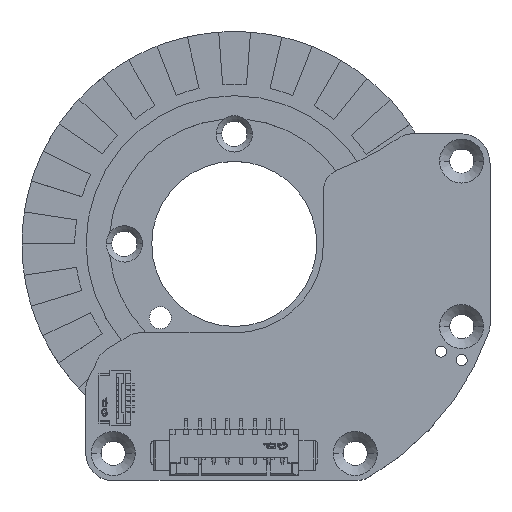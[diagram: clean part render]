
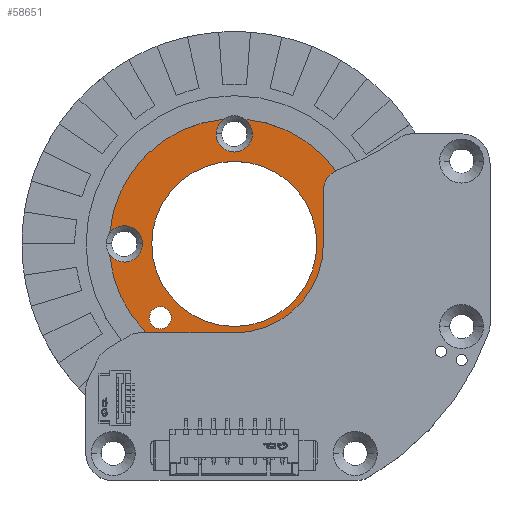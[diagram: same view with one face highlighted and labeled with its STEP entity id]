
A CAD part, top view. The second image highlights one B-rep face of the part: STEP entity #58651.
In plain terms, the highlighted planar face has unit normal (0, 0, 1) as drawn and (0, 1, 0) by its records, which use the part's own axes.
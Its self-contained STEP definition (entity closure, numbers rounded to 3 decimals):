
#56525=CARTESIAN_POINT('',(0.,1.,0.));
#56526=DIRECTION('',(0.,-1.,0.));
#56527=DIRECTION('',(1.,0.,0.));
#56528=AXIS2_PLACEMENT_3D('',#56525,#56526,#56527);
#56530=CARTESIAN_POINT('',(0.,1.,0.));
#56531=DIRECTION('',(0.,-1.,0.));
#56532=DIRECTION('',(-1.,0.,0.));
#56533=AXIS2_PLACEMENT_3D('',#56530,#56531,#56532);
#56703=CARTESIAN_POINT('',(6.718,1.,-6.718));
#56704=DIRECTION('',(0.,1.,0.));
#56705=DIRECTION('',(0.,0.,1.));
#56706=AXIS2_PLACEMENT_3D('',#56703,#56704,#56705);
#56708=CARTESIAN_POINT('',(6.718,1.,-6.718));
#56709=DIRECTION('',(0.,1.,0.));
#56710=DIRECTION('',(0.,0.,-1.));
#56711=AXIS2_PLACEMENT_3D('',#56708,#56709,#56710);
#56718=CARTESIAN_POINT('',(0.,1.,10.));
#56719=DIRECTION('',(0.,-1.,0.));
#56720=DIRECTION('',(1.,0.,0.));
#56721=AXIS2_PLACEMENT_3D('',#56718,#56719,#56720);
#56723=CARTESIAN_POINT('',(0.,1.,10.));
#56724=DIRECTION('',(0.,-1.,0.));
#56725=DIRECTION('',(-1.,0.,0.));
#56726=AXIS2_PLACEMENT_3D('',#56723,#56724,#56725);
#56728=CARTESIAN_POINT('',(0.,1.,10.));
#56729=DIRECTION('',(0.,-1.,0.));
#56730=DIRECTION('',(-0.589,0.,0.808));
#56731=AXIS2_PLACEMENT_3D('',#56728,#56729,#56730);
#56733=CARTESIAN_POINT('',(-10.,1.,0.));
#56734=DIRECTION('',(0.,-1.,0.));
#56735=DIRECTION('',(1.,0.,0.));
#56736=AXIS2_PLACEMENT_3D('',#56733,#56734,#56735);
#56738=CARTESIAN_POINT('',(-10.,1.,0.));
#56739=DIRECTION('',(0.,-1.,0.));
#56740=DIRECTION('',(-0.808,0.,-0.589));
#56741=AXIS2_PLACEMENT_3D('',#56738,#56739,#56740);
#56743=CARTESIAN_POINT('',(0.,1.,-10.));
#56744=DIRECTION('',(0.,-1.,0.));
#56745=DIRECTION('',(-1.,0.,0.));
#56746=AXIS2_PLACEMENT_3D('',#56743,#56744,#56745);
#56748=CARTESIAN_POINT('',(0.,1.,-10.));
#56749=DIRECTION('',(0.,-1.,0.));
#56750=DIRECTION('',(1.,0.,0.));
#56751=AXIS2_PLACEMENT_3D('',#56748,#56749,#56750);
#56753=CARTESIAN_POINT('',(0.,1.,-10.));
#56754=DIRECTION('',(0.,-1.,0.));
#56755=DIRECTION('',(0.589,0.,-0.808));
#56756=AXIS2_PLACEMENT_3D('',#56753,#56754,#56755);
#56758=CARTESIAN_POINT('',(10.,1.,0.));
#56759=DIRECTION('',(0.,-1.,0.));
#56760=DIRECTION('',(-1.,0.,0.));
#56761=AXIS2_PLACEMENT_3D('',#56758,#56759,#56760);
#56763=CARTESIAN_POINT('',(10.,1.,0.));
#56764=DIRECTION('',(0.,-1.,0.));
#56765=DIRECTION('',(0.808,0.,0.589));
#56766=AXIS2_PLACEMENT_3D('',#56763,#56764,#56765);
#57622=CARTESIAN_POINT('',(0.,1.,0.));
#57623=DIRECTION('',(0.,1.,0.));
#57624=DIRECTION('',(-0.085,0.,-0.996));
#57625=AXIS2_PLACEMENT_3D('',#57622,#57623,#57624);
#57676=CARTESIAN_POINT('',(0.,1.,0.));
#57677=DIRECTION('',(0.,1.,0.));
#57678=DIRECTION('',(-0.996,0.,0.085));
#57679=AXIS2_PLACEMENT_3D('',#57676,#57677,#57678);
#57725=CARTESIAN_POINT('',(0.,1.,0.));
#57726=DIRECTION('',(0.,1.,0.));
#57727=DIRECTION('',(0.085,0.,0.996));
#57728=AXIS2_PLACEMENT_3D('',#57725,#57726,#57727);
#57779=CARTESIAN_POINT('',(0.,1.,0.));
#57780=DIRECTION('',(0.,1.,0.));
#57781=DIRECTION('',(0.996,0.,-0.085));
#57782=AXIS2_PLACEMENT_3D('',#57779,#57780,#57781);
#57844=CARTESIAN_POINT('',(7.505,1.,0.));
#57845=CARTESIAN_POINT('',(-7.505,1.,0.));
#57846=VERTEX_POINT('',#57844);
#57847=VERTEX_POINT('',#57845);
#58208=CARTESIAN_POINT('',(-1.65,1.,10.));
#58209=CARTESIAN_POINT('',(1.65,1.,10.));
#58210=VERTEX_POINT('',#58208);
#58211=VERTEX_POINT('',#58209);
#58224=CARTESIAN_POINT('',(1.65,1.,-10.));
#58225=CARTESIAN_POINT('',(-1.65,1.,-10.));
#58226=VERTEX_POINT('',#58224);
#58227=VERTEX_POINT('',#58225);
#58228=CARTESIAN_POINT('',(8.35,1.,
0.));
#58229=VERTEX_POINT('',#58228);
#58230=CARTESIAN_POINT('',(-8.35,1.,
0.));
#58231=VERTEX_POINT('',#58230);
#58236=CARTESIAN_POINT('',(6.718,1.,-5.718));
#58237=CARTESIAN_POINT('',(6.718,1.,-7.718));
#58238=VERTEX_POINT('',#58236);
#58239=VERTEX_POINT('',#58237);
#58256=CARTESIAN_POINT('',(11.333,1.,0.972));
#58258=VERTEX_POINT('',#58256);
#58260=CARTESIAN_POINT('',(11.333,1.,-0.972));
#58261=VERTEX_POINT('',#58260);
#58262=CARTESIAN_POINT('',(-0.972,1.,11.333));
#58263=CARTESIAN_POINT('',(0.972,1.,11.333));
#58264=VERTEX_POINT('',#58262);
#58265=VERTEX_POINT('',#58263);
#58266=CARTESIAN_POINT('',(-11.333,1.,-0.972));
#58268=VERTEX_POINT('',#58266);
#58270=CARTESIAN_POINT('',(-11.333,1.,0.972));
#58271=VERTEX_POINT('',#58270);
#58272=CARTESIAN_POINT('',(0.972,1.,-11.333));
#58273=CARTESIAN_POINT('',(-0.972,1.,-11.333));
#58274=VERTEX_POINT('',#58272);
#58275=VERTEX_POINT('',#58273);
#58604=CARTESIAN_POINT('',(0.,1.,0.));
#58605=DIRECTION('',(0.,1.,0.));
#58606=DIRECTION('',(0.139,0.,-0.99));
#58607=AXIS2_PLACEMENT_3D('',#58604,#58605,#58606);
#58608=PLANE('',#58607);
#58610=ORIENTED_EDGE('',*,*,#58609,.F.);
#58612=ORIENTED_EDGE('',*,*,#58611,.F.);
#58614=ORIENTED_EDGE('',*,*,#58613,.F.);
#58616=ORIENTED_EDGE('',*,*,#58615,.F.);
#58618=ORIENTED_EDGE('',*,*,#58617,.F.);
#58620=ORIENTED_EDGE('',*,*,#58619,.F.);
#58622=ORIENTED_EDGE('',*,*,#58621,.F.);
#58624=ORIENTED_EDGE('',*,*,#58623,.F.);
#58626=ORIENTED_EDGE('',*,*,#58625,.F.);
#58628=ORIENTED_EDGE('',*,*,#58627,.F.);
#58630=ORIENTED_EDGE('',*,*,#58629,.F.);
#58632=ORIENTED_EDGE('',*,*,#58631,.F.);
#58634=ORIENTED_EDGE('',*,*,#58633,.F.);
#58636=ORIENTED_EDGE('',*,*,#58635,.F.);
#58637=EDGE_LOOP('',(#58610,#58612,#58614,#58616,#58618,#58620,#58622,#58624,
#58626,#58628,#58630,#58632,#58634,#58636));
#58638=FACE_OUTER_BOUND('',#58637,.F.);
#58640=ORIENTED_EDGE('',*,*,#58639,.F.);
#58642=ORIENTED_EDGE('',*,*,#58641,.F.);
#58643=EDGE_LOOP('',(#58640,#58642));
#58644=FACE_BOUND('',#58643,.F.);
#58646=ORIENTED_EDGE('',*,*,#58645,.T.);
#58648=ORIENTED_EDGE('',*,*,#58647,.T.);
#58649=EDGE_LOOP('',(#58646,#58648));
#58650=FACE_BOUND('',#58649,.F.);
#58651=ADVANCED_FACE('',(#58638,#58644,#58650),#58608,.T.);
#56529=CIRCLE('',#56528,7.505);
#56534=CIRCLE('',#56533,7.505);
#56707=CIRCLE('',#56706,1.);
#56712=CIRCLE('',#56711,1.);
#56722=CIRCLE('',#56721,1.65);
#56727=CIRCLE('',#56726,1.65);
#56732=CIRCLE('',#56731,1.65);
#56737=CIRCLE('',#56736,1.65);
#56742=CIRCLE('',#56741,1.65);
#56747=CIRCLE('',#56746,1.65);
#56752=CIRCLE('',#56751,1.65);
#56757=CIRCLE('',#56756,1.65);
#56762=CIRCLE('',#56761,1.65);
#56767=CIRCLE('',#56766,1.65);
#57626=CIRCLE('',#57625,11.375);
#57680=CIRCLE('',#57679,11.375);
#57729=CIRCLE('',#57728,11.375);
#57783=CIRCLE('',#57782,11.375);
#58609=EDGE_CURVE('',#58265,#58258,#57729,.T.);
#58611=EDGE_CURVE('',#58211,#58265,#56722,.T.);
#58613=EDGE_CURVE('',#58210,#58211,#56727,.T.);
#58615=EDGE_CURVE('',#58264,#58210,#56732,.T.);
#58617=EDGE_CURVE('',#58271,#58264,#57680,.T.);
#58619=EDGE_CURVE('',#58231,#58271,#56737,.T.);
#58621=EDGE_CURVE('',#58268,#58231,#56742,.T.);
#58623=EDGE_CURVE('',#58275,#58268,#57626,.T.);
#58625=EDGE_CURVE('',#58227,#58275,#56747,.T.);
#58627=EDGE_CURVE('',#58226,#58227,#56752,.T.);
#58629=EDGE_CURVE('',#58274,#58226,#56757,.T.);
#58631=EDGE_CURVE('',#58261,#58274,#57783,.T.);
#58633=EDGE_CURVE('',#58229,#58261,#56762,.T.);
#58635=EDGE_CURVE('',#58258,#58229,#56767,.T.);
#58639=EDGE_CURVE('',#57846,#57847,#56529,.T.);
#58641=EDGE_CURVE('',#57847,#57846,#56534,.T.);
#58645=EDGE_CURVE('',#58238,#58239,#56707,.T.);
#58647=EDGE_CURVE('',#58239,#58238,#56712,.T.);
